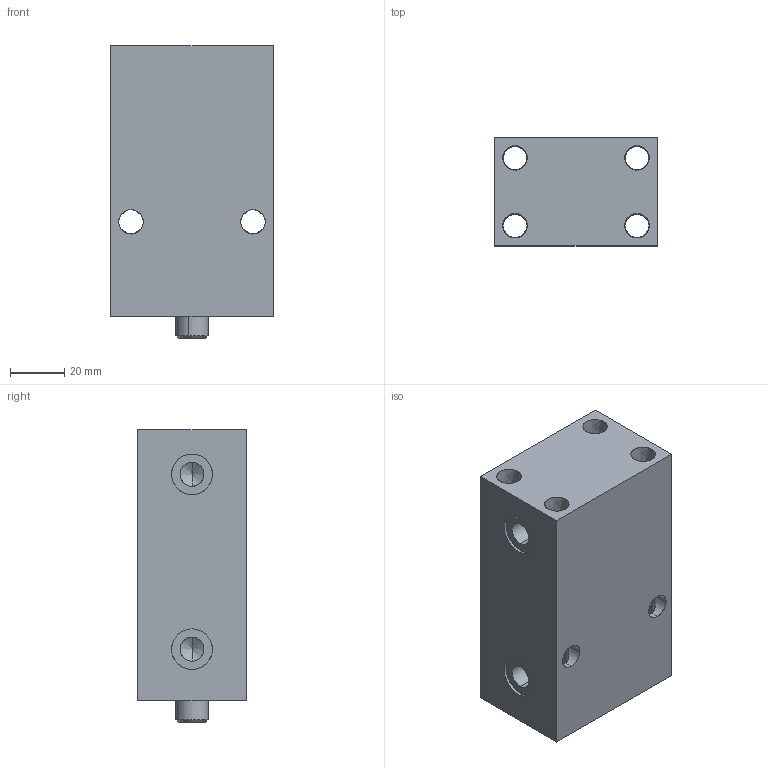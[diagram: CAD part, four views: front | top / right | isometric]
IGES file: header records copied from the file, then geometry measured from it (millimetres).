
Start section: SolidWorks IGES file using analytic representation for surfaces
Global section: file name: D:\karuppas\Clasp\3D model\Block cylinder B01C-Female thread\B01C-050F\Block cylinder B01C-050F.IGS; native system: SolidWorks 2017; preprocessor: SolidWorks 2017; author: pc; date: 220709.235534; units: millimetre
Bounding box: 60 x 40 x 108 mm (x, y, z)
Surface area: 42067.7 mm2 (no closed solid volume)
Topology: 0 solids, 0 shells, 234 faces, 4171 edges, 4165 vertices
Faces by surface type: bspline 182, revolution 52
